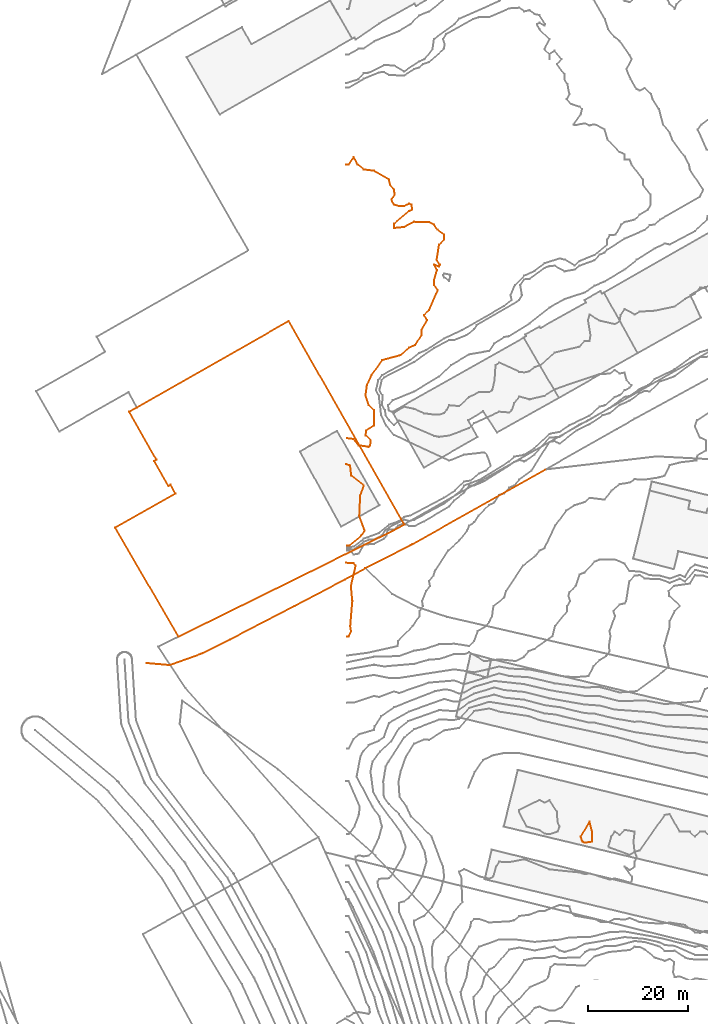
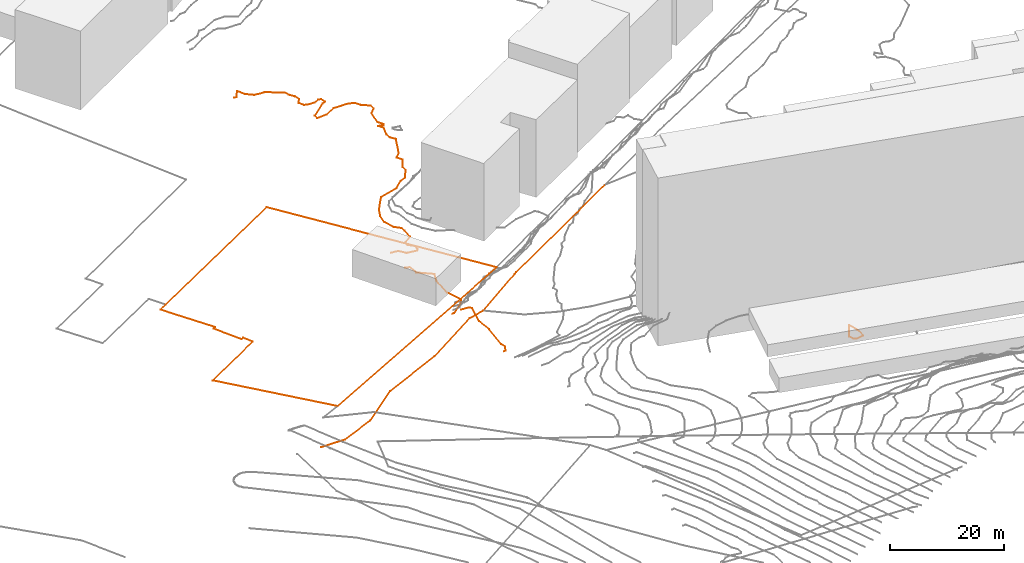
# Not in any storey, part 118 of 419: 7 proxies.
"""IFC2X3 model written with IfcOpenShell, lengths in metres."""

from ifc_helpers import new_model, entity, si_unit, frame, origin_with_axes, place, context, subcontext, project, element, save


model = new_model("IFC2X3")

# Units and contexts
model_context = context("Model", 3, precision=1e-05, world=origin_with_axes())
body_context = subcontext(model_context, "Body", "Model", "MODEL_VIEW")
ifc_project = project(units=[si_unit("AREAUNIT", "SQUARE_METRE"), si_unit("LENGTHUNIT", "METRE")], contexts=[model_context])

# Proxies
proxy_1_placement = place(None, frame((-40.2079795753, 362.4976909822, 6.7), z_axis=(0.0, 0.0, 1.0), x_axis=(1.0, 0.0, 0.0)))
element("IfcBuildingElementProxy", 1, at=proxy_1_placement, Name="Route 332", ObjectType="NOTDEFINED", context=body_context, shape_type="GeometricCurveSet", body=[
    entity("IfcGeometricCurveSet", [entity("IfcPolyline", [entity("IfcCartesianPoint", [43.6000000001, 18.9000000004, 2.4]), entity("IfcCartesianPoint", [39.6000000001, 16.7000000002, 3.5]), entity("IfcCartesianPoint", [29.5, 11.4000000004, 2.2]), entity("IfcCartesianPoint", [16.6000000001, 4.7000000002, 3.3]), entity("IfcCartesianPoint", [11.0, 1.9000000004, 0.7]), entity("IfcCartesianPoint", [4.6000000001, -0.3999999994, 0.3]), entity("IfcCartesianPoint", [0.0, 0.0, 0.0])])]),
])
proxy_2_placement = place(None, frame((3.3920204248, 381.3976909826, 9.1), z_axis=(0.0, 0.0, 1.0), x_axis=(1.0, 0.0, 0.0)))
element("IfcBuildingElementProxy", 2, at=proxy_2_placement, Name="Route 338", ObjectType="NOTDEFINED", context=body_context, shape_type="GeometricCurveSet", body=[
    entity("IfcGeometricCurveSet", [entity("IfcPolyline", [entity("IfcCartesianPoint", [35.8999999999, 19.7000000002, 2.3]), entity("IfcCartesianPoint", [9.3999999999, 4.7999999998, 2.0]), entity("IfcCartesianPoint", [9.0, 4.5999999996, 1.9]), entity("IfcCartesianPoint", [0.0, 0.0, 0.0])])]),
])
proxy_3_placement = place(None, frame((-46.4679795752, 389.5176909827, 6.7595999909), z_axis=(0.0, 0.0, 1.0), x_axis=(1.0, 0.0, 0.0)))
element("IfcBuildingElementProxy", 3, at=proxy_3_placement, Name="Cadastre 327", ObjectType="NOTDEFINED", context=body_context, shape_type="GeometricCurveSet", body=[
    entity("IfcGeometricCurveSet", [entity("IfcPolyline", [entity("IfcCartesianPoint", [12.63, -21.7400000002, 3.279999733]), entity("IfcCartesianPoint", [0.0, 0.0, 0.0]), entity("IfcCartesianPoint", [12.0, 6.7999999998, -0.0364001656]), entity("IfcCartesianPoint", [11.0299999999, 8.5300000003, 0.0429001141]), entity("IfcCartesianPoint", [10.62, 8.2999999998, 0.0314000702]), entity("IfcCartesianPoint", [7.7999999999, 13.2599999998, 0.2597998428]), entity("IfcCartesianPoint", [8.24, 13.5099999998, 0.2922998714]), entity("IfcCartesianPoint", [2.7799999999, 23.0899999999, 0.1046001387]), entity("IfcCartesianPoint", [4.34, 23.9699999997, 0.119500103]), entity("IfcCartesianPoint", [34.61, 41.1799999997, -0.1605999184]), entity("IfcCartesianPoint", [57.64, 0.6399999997, 3.5524881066]), entity("IfcCartesianPoint", [55.4299999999, -0.6200000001, 3.7316500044]), entity("IfcCartesianPoint", [12.63, -21.7400000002, 3.279999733])])]),
])
proxy_4_placement = place(None, frame((-0.4079795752, 407.359228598, 7.0), z_axis=(0.0, 0.0, 1.0), x_axis=(1.0, 0.0, 0.0)))
element("IfcBuildingElementProxy", 4, at=proxy_4_placement, Name="Contour 7.0 m", ObjectType="NOTDEFINED", context=body_context, shape_type="GeometricCurveSet", body=[
    entity("IfcGeometricCurveSet", [entity("IfcPolyline", [entity("IfcCartesianPoint", [0.0, 0.0, 0.0]), entity("IfcCartesianPoint", [1.5, -0.2115346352, 0.0]), entity("IfcCartesianPoint", [2.5, -1.4614876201, 0.0]), entity("IfcCartesianPoint", [4.5, -1.7472509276, 0.0]), entity("IfcCartesianPoint", [4.75, -1.4615376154, 0.0]), entity("IfcCartesianPoint", [4.8999980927, -0.4615376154, 0.0]), entity("IfcCartesianPoint", [3.8333386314, 0.5384623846, 0.0]), entity("IfcCartesianPoint", [3.9999750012, 1.5384623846, 0.0]), entity("IfcCartesianPoint", [5.4999800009, 2.5384623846, 0.0]), entity("IfcCartesianPoint", [5.5816326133, 4.5384623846, 0.0]), entity("IfcCartesianPoint", [5.5, 5.538437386, 0.0]), entity("IfcCartesianPoint", [4.5, 6.5384123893, 0.0]), entity("IfcCartesianPoint", [3.8333333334, 8.5384623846, 0.0]), entity("IfcCartesianPoint", [4.1111108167, 10.5384623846, 0.0]), entity("IfcCartesianPoint", [5.0200004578, 12.5384623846, 0.0]), entity("IfcCartesianPoint", [7.1666666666, 15.5384623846, 0.0]), entity("IfcCartesianPoint", [10.833334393, 16.5384623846, 0.0]), entity("IfcCartesianPoint", [12.5, 18.0384679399, 0.0]), entity("IfcCartesianPoint", [13.7222222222, 18.5384623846, 0.0]), entity("IfcCartesianPoint", [14.9999750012, 20.5384623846, 0.0]), entity("IfcCartesianPoint", [14.9999500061, 21.5384623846, 0.0]), entity("IfcCartesianPoint", [16.1000019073, 23.5384623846, 0.0]), entity("IfcCartesianPoint", [15.5, 24.5385123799, 0.0]), entity("IfcCartesianPoint", [16.499950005, 25.5384623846, 0.0]), entity("IfcCartesianPoint", [18.2499970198, 29.5384623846, 0.0]), entity("IfcCartesianPoint", [17.4999666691, 30.5384623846, 0.0]), entity("IfcCartesianPoint", [17.499950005, 31.5384623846, 0.0]), entity("IfcCartesianPoint", [18.1000019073, 33.5384623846, 0.0]), entity("IfcCartesianPoint", [17.4999750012, 34.5384623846, 0.0]), entity("IfcCartesianPoint", [18.5, 34.2051237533, 0.0]), entity("IfcCartesianPoint", [18.6666693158, 34.5384623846, 0.0]), entity("IfcCartesianPoint", [17.9999875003, 35.5384623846, 0.0]), entity("IfcCartesianPoint", [18.4999833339, 38.5384623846, 0.0]), entity("IfcCartesianPoint", [19.4999666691, 39.5384623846, 0.0]), entity("IfcCartesianPoint", [19.499950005, 40.5384623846, 0.0]), entity("IfcCartesianPoint", [18.1666613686, 41.5384623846, 0.0]), entity("IfcCartesianPoint", [17.5, 42.5384123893, 0.0]), entity("IfcCartesianPoint", [16.5, 43.0384123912, 0.0]), entity("IfcCartesianPoint", [13.5, 43.1098909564, 0.0]), entity("IfcCartesianPoint", [11.5, 42.0717948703, 0.0]), entity("IfcCartesianPoint", [9.5, 41.8718010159, 0.0]), entity("IfcCartesianPoint", [9.5, 42.7202801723, 0.0]), entity("IfcCartesianPoint", [12.5, 45.2884623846, 0.0]), entity("IfcCartesianPoint", [13.1666666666, 45.5384623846, 0.0]), entity("IfcCartesianPoint", [12.9999500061, 46.5384623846, 0.0]), entity("IfcCartesianPoint", [12.5, 46.7051317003, 0.0]), entity("IfcCartesianPoint", [11.5, 46.2527490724, 0.0]), entity("IfcCartesianPoint", [10.5, 46.2384614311, 0.0]), entity("IfcCartesianPoint", [9.499950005, 46.5384623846, 0.0]), entity("IfcCartesianPoint", [8.999983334, 47.5384623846, 0.0]), entity("IfcCartesianPoint", [9.6666693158, 48.5384623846, 0.0]), entity("IfcCartesianPoint", [9.5, 49.5383624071, 0.0]), entity("IfcCartesianPoint", [8.7500029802, 50.5384623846, 0.0]), entity("IfcCartesianPoint", [8.4999666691, 51.5384623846, 0.0]), entity("IfcCartesianPoint", [5.5, 53.2884594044, 0.0]), entity("IfcCartesianPoint", [3.4999666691, 53.5384623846, 0.0]), entity("IfcCartesianPoint", [2.2499970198, 54.5384623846, 0.0]), entity("IfcCartesianPoint", [1.5, 56.0384123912, 0.0]), entity("IfcCartesianPoint", [0.5000333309, 54.5384623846, 0.0]), entity("IfcCartesianPoint", [0.0, 54.5384423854, 0.0])])]),
])
proxy_5_placement = place(None, frame((-0.4079795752, 385.8787036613, 7.0), z_axis=(0.0, 0.0, 1.0), x_axis=(1.0, 0.0, 0.0)))
element("IfcBuildingElementProxy", 5, at=proxy_5_placement, Name="Contour 7.0 m", ObjectType="NOTDEFINED", context=body_context, shape_type="GeometricCurveSet", body=[
    entity("IfcGeometricCurveSet", [entity("IfcPolyline", [entity("IfcCartesianPoint", [0.0, 0.0, 0.0]), entity("IfcCartesianPoint", [0.5789473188, 0.0189873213, 0.0]), entity("IfcCartesianPoint", [2.9999900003, 2.0189873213, 0.0]), entity("IfcCartesianPoint", [3.6538458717, 3.0189873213, 0.0]), entity("IfcCartesianPoint", [2.6000019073, 6.0189873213, 0.0]), entity("IfcCartesianPoint", [2.7727288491, 10.0189873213, 0.0]), entity("IfcCartesianPoint", [3.4999800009, 12.0189873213, 0.0]), entity("IfcCartesianPoint", [0.9999875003, 14.0189873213, 0.0]), entity("IfcCartesianPoint", [0.7727288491, 16.0189873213, 0.0]), entity("IfcCartesianPoint", [0.0, 16.2497579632, 0.0])])]),
])
proxy_6_placement = place(None, frame((-0.4079795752, 367.7726880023, 10.0), z_axis=(0.0, 0.0, 1.0), x_axis=(1.0, 0.0, 0.0)))
element("IfcBuildingElementProxy", 6, at=proxy_6_placement, Name="Contour 10.0 m", ObjectType="NOTDEFINED", context=body_context, shape_type="GeometricCurveSet", body=[
    entity("IfcGeometricCurveSet", [entity("IfcPolyline", [entity("IfcCartesianPoint", [0.0, 0.0, 0.0]), entity("IfcCartesianPoint", [0.5, 0.0, 0.0]), entity("IfcCartesianPoint", [0.9545446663, 1.1250029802, 0.0]), entity("IfcCartesianPoint", [0.7999990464, 2.1250029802, 0.0]), entity("IfcCartesianPoint", [1.2142818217, 7.1250029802, 0.0]), entity("IfcCartesianPoint", [0.9285694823, 10.1250029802, 0.0]), entity("IfcCartesianPoint", [1.8749970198, 14.1250029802, 0.0]), entity("IfcCartesianPoint", [1.5, 14.6249863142, 0.0]), entity("IfcCartesianPoint", [0.0, 14.7250017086, 0.0])])]),
])
proxy_7_placement = place(None, frame((46.3420204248, 327.8976909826, 21.0), z_axis=(0.0, 0.0, 1.0), x_axis=(1.0, 0.0, 0.0)))
element("IfcBuildingElementProxy", 7, at=proxy_7_placement, Name="Contour 21.0 m", ObjectType="NOTDEFINED", context=body_context, shape_type="GeometricCurveSet", body=[
    entity("IfcGeometricCurveSet", [entity("IfcPolyline", [entity("IfcCartesianPoint", [2.2500249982, -1.0, 0.0]), entity("IfcCartesianPoint", [0.75, -1.2000025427, 0.0]), entity("IfcCartesianPoint", [0.3214285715, -1.0, 0.0]), entity("IfcCartesianPoint", [0.0, 0.0, 0.0]), entity("IfcCartesianPoint", [1.75, 3.0000499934, 0.0]), entity("IfcCartesianPoint", [2.2500166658, 1.0, 0.0]), entity("IfcCartesianPoint", [2.2500249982, -1.0, 0.0])])]),
])

save(model, "model.ifc")
